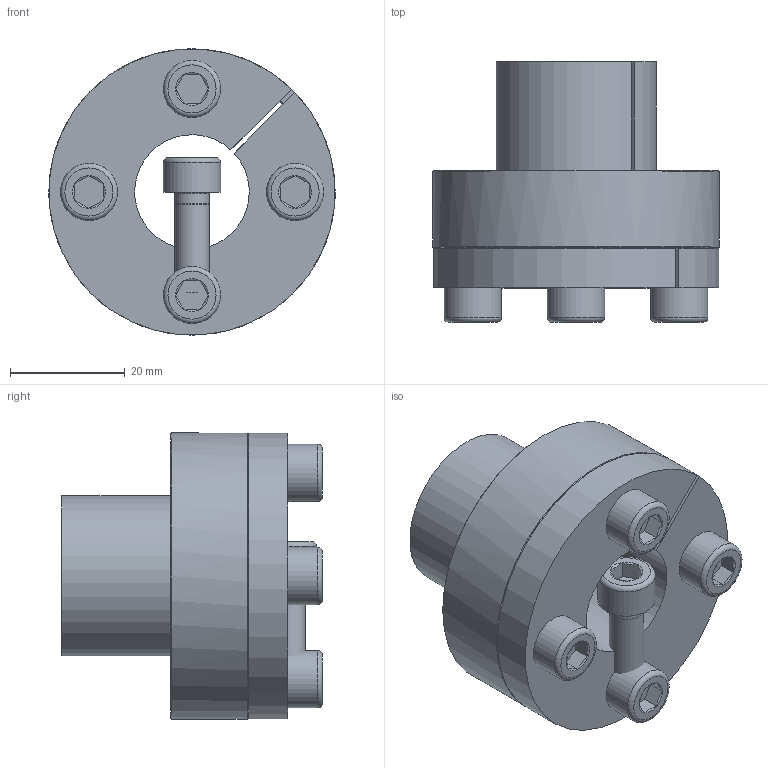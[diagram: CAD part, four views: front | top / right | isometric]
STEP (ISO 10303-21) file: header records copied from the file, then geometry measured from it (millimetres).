
FILE_DESCRIPTION( ( 'Unknown' ), '1' );
FILE_NAME( 'C:/Dokumente und Einstellungen/Sven/Desktop/homepage/cad - homepage/KBS80/KBS 80 - 20 x 28.stp', 'Unknown', ( 'Unknown' ), ( 'Unknown' ), 'XStep 1.0', 'Unknown', ' ' );
FILE_SCHEMA( ( 'automotive_design' ) );
Length unit declared in the file: millimetre
Products named in the file (6): Assem1; KBS 80 - 20 x 28; ISO EN DIN 4762 M6x18; ISO EN DIN 4762 M6x18-oa0; ISO EN DIN 4762 M6x18-oa1; ISO EN DIN 4762 M6x18-oa2
Bounding box: 50 x 45.5 x 50 mm (x, y, z)
Volume: 80974.6 mm3; surface area: 31176.6 mm2
Topology: 10 solids, 10 shells, 248 faces, 478 edges, 280 vertices
Faces by surface type: plane 112, cone 70, cylinder 50, torus 16
Full cylindrical faces by diameter (mm): 5 x8, 6 x24, 10 x8, 50 x2
Entity records: 3283 total; most frequent: CARTESIAN_POINT 661, DIRECTION 516, ORIENTED_EDGE 386, AXIS2_PLACEMENT_3D 225, EDGE_CURVE 193, EDGE_LOOP 185, FACE_OUTER_BOUND 153, VERTEX_POINT 130
